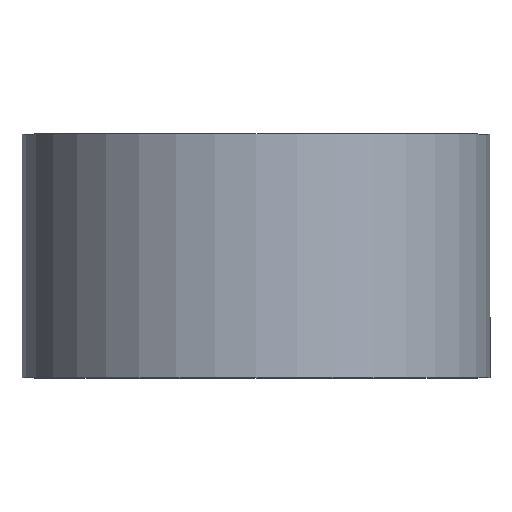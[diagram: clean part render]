
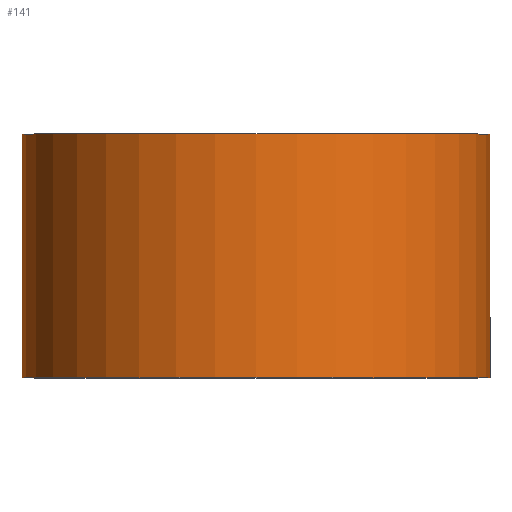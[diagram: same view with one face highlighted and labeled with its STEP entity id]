
A CAD part, top view. The second image highlights one B-rep face of the part: STEP entity #141.
In plain terms, the highlighted cylindrical face has radius 24 mm (diameter 48 mm), a partial arc.
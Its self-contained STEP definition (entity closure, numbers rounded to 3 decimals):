
#1 = VERTEX_POINT ( 'NONE', #166 ) ;
#10 = EDGE_CURVE ( 'NONE', #219, #50, #139, .T. ) ;
#22 = CARTESIAN_POINT ( 'NONE',  ( -24., 0., 0. ) ) ;
#24 = EDGE_LOOP ( 'NONE', ( #111, #188, #182, #294 ) ) ;
#36 = VECTOR ( 'NONE', #247, 1000. ) ;
#37 = CARTESIAN_POINT ( 'NONE',  ( 24., 0., 0. ) ) ;
#48 = EDGE_CURVE ( 'NONE', #1, #117, #90, .T. ) ;
#50 = VERTEX_POINT ( 'NONE', #37 ) ;
#65 = CARTESIAN_POINT ( 'NONE',  ( -24., 0., 0. ) ) ;
#66 = DIRECTION ( 'NONE',  ( 0., 1., 0. ) ) ;
#68 = CYLINDRICAL_SURFACE ( 'NONE', #291, 24. ) ;
#84 = DIRECTION ( 'NONE',  ( -1., 0., 0. ) ) ;
#90 = CIRCLE ( 'NONE', #209, 24. ) ;
#100 = CARTESIAN_POINT ( 'NONE',  ( 0., 0., 0. ) ) ;
#111 = ORIENTED_EDGE ( 'NONE', *, *, #10, .T. ) ;
#117 = VERTEX_POINT ( 'NONE', #200 ) ;
#123 = CARTESIAN_POINT ( 'NONE',  ( 0., 25., 0. ) ) ;
#124 = DIRECTION ( 'NONE',  ( 0., 1., 0. ) ) ;
#139 = CIRCLE ( 'NONE', #222, 24. ) ;
#141 = ADVANCED_FACE ( 'NONE', ( #256 ), #68, .T. ) ;
#145 = DIRECTION ( 'NONE',  ( -1., 0., 0. ) ) ;
#146 = DIRECTION ( 'NONE',  ( -1., 0., 0. ) ) ;
#166 = CARTESIAN_POINT ( 'NONE',  ( -24., 25., 0. ) ) ;
#182 = ORIENTED_EDGE ( 'NONE', *, *, #48, .F. ) ;
#185 = EDGE_CURVE ( 'NONE', #50, #117, #282, .T. ) ;
#188 = ORIENTED_EDGE ( 'NONE', *, *, #185, .T. ) ;
#195 = VECTOR ( 'NONE', #66, 1000. ) ;
#200 = CARTESIAN_POINT ( 'NONE',  ( 24., 25., 0. ) ) ;
#209 = AXIS2_PLACEMENT_3D ( 'NONE', #123, #292, #146 ) ;
#219 = VERTEX_POINT ( 'NONE', #22 ) ;
#222 = AXIS2_PLACEMENT_3D ( 'NONE', #100, #124, #145 ) ;
#224 = CARTESIAN_POINT ( 'NONE',  ( 0., 0., 0. ) ) ;
#247 = DIRECTION ( 'NONE',  ( 0., 1., 0. ) ) ;
#250 = CARTESIAN_POINT ( 'NONE',  ( 24., 0., 0. ) ) ;
#256 = FACE_OUTER_BOUND ( 'NONE', #24, .T. ) ;
#258 = LINE ( 'NONE', #65, #195 ) ;
#282 = LINE ( 'NONE', #250, #36 ) ;
#291 = AXIS2_PLACEMENT_3D ( 'NONE', #224, #295, #84 ) ;
#292 = DIRECTION ( 'NONE',  ( 0., 1., 0. ) ) ;
#294 = ORIENTED_EDGE ( 'NONE', *, *, #300, .F. ) ;
#295 = DIRECTION ( 'NONE',  ( 0., 1., 0. ) ) ;
#300 = EDGE_CURVE ( 'NONE', #219, #1, #258, .T. ) ;
